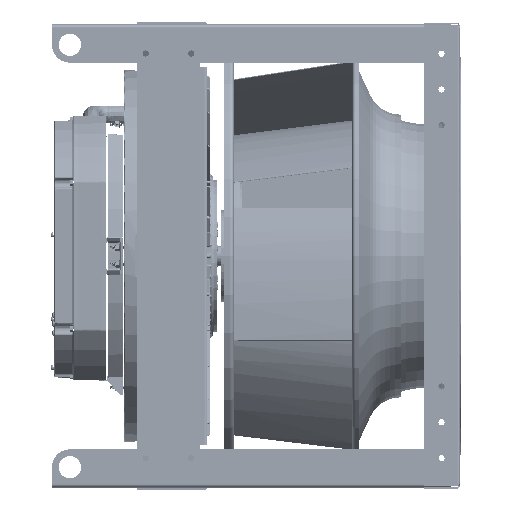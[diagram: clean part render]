
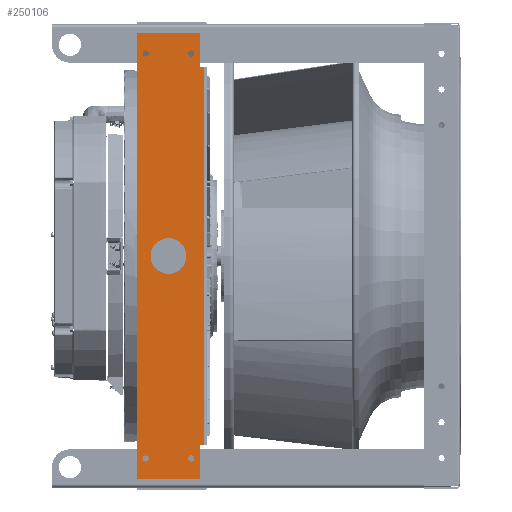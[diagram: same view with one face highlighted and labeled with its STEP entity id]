
A CAD part, front view. The second image highlights one B-rep face of the part: STEP entity #250106.
In plain terms, the highlighted planar face has unit normal (0, -1, 0) as drawn and (0, 0, 1) by its records, which use the part's own axes.
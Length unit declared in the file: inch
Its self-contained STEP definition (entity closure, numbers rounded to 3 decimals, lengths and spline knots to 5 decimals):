
#850 = CIRCLE ( 'NONE', #250341, 0.172 ) ;
#2383 = VECTOR ( 'NONE', #114653, 39.37008 ) ;
#4296 = CARTESIAN_POINT ( 'NONE',  ( 10.555, 1.9775, 0.135 ) ) ;
#7217 = VECTOR ( 'NONE', #151935, 39.37008 ) ;
#7656 = ORIENTED_EDGE ( 'NONE', *, *, #189326, .T. ) ;
#7744 = VECTOR ( 'NONE', #36117, 39.37008 ) ;
#11211 = FACE_BOUND ( 'NONE', #98206, .T. ) ;
#11302 = CARTESIAN_POINT ( 'NONE',  ( -12.465, 1.77, 0.135 ) ) ;
#12563 = PLANE ( 'NONE',  #202359 ) ;
#13639 = EDGE_LOOP ( 'NONE', ( #167964 ) ) ;
#16611 = EDGE_CURVE ( 'NONE', #42034, #265166, #261294, .T. ) ;
#17618 = CARTESIAN_POINT ( 'NONE',  ( 12.465, -1.77, 0.135 ) ) ;
#23545 = CARTESIAN_POINT ( 'NONE',  ( 10.555, 1.77, 0.135 ) ) ;
#24462 = EDGE_CURVE ( 'NONE', #31300, #31300, #154747, .T. ) ;
#30346 = ORIENTED_EDGE ( 'NONE', *, *, #176152, .F. ) ;
#31300 = VERTEX_POINT ( 'NONE', #32644 ) ;
#31707 = DIRECTION ( 'NONE',  ( 0., 0., 1. ) ) ;
#32075 = AXIS2_PLACEMENT_3D ( 'NONE', #50211, #198237, #217446 ) ;
#32644 = CARTESIAN_POINT ( 'NONE',  ( 11.477, -1.27, 0.135 ) ) ;
#33119 = FACE_OUTER_BOUND ( 'NONE', #215445, .T. ) ;
#35811 = DIRECTION ( 'NONE',  ( 0., 0., -1. ) ) ;
#36117 = DIRECTION ( 'NONE',  ( 0., -1., 0. ) ) ;
#39811 = DIRECTION ( 'NONE',  ( 0., 0., 1. ) ) ;
#41277 = VERTEX_POINT ( 'NONE', #23545 ) ;
#42034 = VERTEX_POINT ( 'NONE', #59282 ) ;
#42741 = EDGE_CURVE ( 'NONE', #226357, #41277, #50391, .T. ) ;
#45931 = LINE ( 'NONE', #252978, #182720 ) ;
#50211 = CARTESIAN_POINT ( 'NONE',  ( 11.305, 1.27, 0.135 ) ) ;
#50391 = LINE ( 'NONE', #216290, #7217 ) ;
#51025 = LINE ( 'NONE', #11302, #227820 ) ;
#52885 = CARTESIAN_POINT ( 'NONE',  ( -12.465, -1.77, 0.135 ) ) ;
#55802 = CARTESIAN_POINT ( 'NONE',  ( 0., 0., 0.135 ) ) ;
#56340 = FACE_BOUND ( 'NONE', #66647, .T. ) ;
#59282 = CARTESIAN_POINT ( 'NONE',  ( -12.465, 1.77, 0.135 ) ) ;
#62477 = CARTESIAN_POINT ( 'NONE',  ( 1., 0., 0.135 ) ) ;
#62935 = ORIENTED_EDGE ( 'NONE', *, *, #42741, .T. ) ;
#63827 = VERTEX_POINT ( 'NONE', #62477 ) ;
#66647 = EDGE_LOOP ( 'NONE', ( #135028 ) ) ;
#69074 = AXIS2_PLACEMENT_3D ( 'NONE', #239694, #114962, #132833 ) ;
#70729 = ORIENTED_EDGE ( 'NONE', *, *, #254744, .T. ) ;
#73283 = LINE ( 'NONE', #155618, #238849 ) ;
#75897 = CIRCLE ( 'NONE', #32075, 0.172 ) ;
#78133 = VERTEX_POINT ( 'NONE', #267377 ) ;
#79309 = DIRECTION ( 'NONE',  ( 0., 1., 0. ) ) ;
#85936 = CIRCLE ( 'NONE', #129779, 1. ) ;
#88894 = CARTESIAN_POINT ( 'NONE',  ( -11.477, -1.27, 0.135 ) ) ;
#93902 = DIRECTION ( 'NONE',  ( -1., 0., 0. ) ) ;
#94008 = EDGE_CURVE ( 'NONE', #78133, #42034, #51025, .T. ) ;
#96197 = CARTESIAN_POINT ( 'NONE',  ( 0., 0., 0.135 ) ) ;
#97879 = CARTESIAN_POINT ( 'NONE',  ( -10.555, 1.9775, 0.135 ) ) ;
#98206 = EDGE_LOOP ( 'NONE', ( #127704 ) ) ;
#104064 = VERTEX_POINT ( 'NONE', #88894 ) ;
#112399 = ORIENTED_EDGE ( 'NONE', *, *, #147413, .F. ) ;
#114653 = DIRECTION ( 'NONE',  ( 0., -1., 0. ) ) ;
#114962 = DIRECTION ( 'NONE',  ( 0., 0., 1. ) ) ;
#115375 = AXIS2_PLACEMENT_3D ( 'NONE', #219491, #31707, #198916 ) ;
#119246 = EDGE_CURVE ( 'NONE', #139496, #41277, #181423, .T. ) ;
#127704 = ORIENTED_EDGE ( 'NONE', *, *, #267573, .F. ) ;
#129779 = AXIS2_PLACEMENT_3D ( 'NONE', #55802, #180622, #183303 ) ;
#132833 = DIRECTION ( 'NONE',  ( 1., 0., 0. ) ) ;
#134836 = CIRCLE ( 'NONE', #69074, 0.172 ) ;
#135028 = ORIENTED_EDGE ( 'NONE', *, *, #145018, .F. ) ;
#136237 = DIRECTION ( 'NONE',  ( 0., -1., 0. ) ) ;
#137588 = CARTESIAN_POINT ( 'NONE',  ( 10.555, 1.9775, 0.135 ) ) ;
#139496 = VERTEX_POINT ( 'NONE', #4296 ) ;
#142737 = FACE_BOUND ( 'NONE', #268172, .T. ) ;
#145018 = EDGE_CURVE ( 'NONE', #63827, #63827, #85936, .T. ) ;
#147413 = EDGE_CURVE ( 'NONE', #184569, #184569, #134836, .T. ) ;
#151935 = DIRECTION ( 'NONE',  ( -1., 0., 0. ) ) ;
#153403 = VECTOR ( 'NONE', #136237, 39.37008 ) ;
#154747 = CIRCLE ( 'NONE', #115375, 0.172 ) ;
#155618 = CARTESIAN_POINT ( 'NONE',  ( 10.555, 1.9775, 0.135 ) ) ;
#165724 = ORIENTED_EDGE ( 'NONE', *, *, #119246, .F. ) ;
#167964 = ORIENTED_EDGE ( 'NONE', *, *, #24462, .F. ) ;
#176152 = EDGE_CURVE ( 'NONE', #177523, #177523, #75897, .T. ) ;
#177523 = VERTEX_POINT ( 'NONE', #261097 ) ;
#180622 = DIRECTION ( 'NONE',  ( 0., 0., 1. ) ) ;
#181423 = LINE ( 'NONE', #137588, #153403 ) ;
#182720 = VECTOR ( 'NONE', #251624, 39.37008 ) ;
#183303 = DIRECTION ( 'NONE',  ( 1., 0., 0. ) ) ;
#183503 = LINE ( 'NONE', #267115, #233693 ) ;
#184569 = VERTEX_POINT ( 'NONE', #268188 ) ;
#189326 = EDGE_CURVE ( 'NONE', #265166, #206780, #45931, .T. ) ;
#195228 = ORIENTED_EDGE ( 'NONE', *, *, #94008, .T. ) ;
#198237 = DIRECTION ( 'NONE',  ( 0., 0., 1. ) ) ;
#198811 = EDGE_LOOP ( 'NONE', ( #112399 ) ) ;
#198916 = DIRECTION ( 'NONE',  ( 1., 0., 0. ) ) ;
#199377 = CARTESIAN_POINT ( 'NONE',  ( 12.465, 1.77, 0.135 ) ) ;
#200325 = FACE_BOUND ( 'NONE', #198811, .T. ) ;
#202359 = AXIS2_PLACEMENT_3D ( 'NONE', #96197, #35811, #226312 ) ;
#202904 = CARTESIAN_POINT ( 'NONE',  ( -12.465, -1.77, 0.135 ) ) ;
#206780 = VERTEX_POINT ( 'NONE', #17618 ) ;
#207030 = DIRECTION ( 'NONE',  ( -1., 0., 0. ) ) ;
#215445 = EDGE_LOOP ( 'NONE', ( #269294, #7656, #70729, #62935, #165724, #217325, #262630, #195228 ) ) ;
#216290 = CARTESIAN_POINT ( 'NONE',  ( -12.465, 1.77, 0.135 ) ) ;
#217325 = ORIENTED_EDGE ( 'NONE', *, *, #230206, .T. ) ;
#217446 = DIRECTION ( 'NONE',  ( -1., 0., 0. ) ) ;
#219491 = CARTESIAN_POINT ( 'NONE',  ( 11.305, -1.27, 0.135 ) ) ;
#223620 = FACE_BOUND ( 'NONE', #13639, .T. ) ;
#226312 = DIRECTION ( 'NONE',  ( -1., 0., 0. ) ) ;
#226357 = VERTEX_POINT ( 'NONE', #199377 ) ;
#227820 = VECTOR ( 'NONE', #236193, 39.37008 ) ;
#230206 = EDGE_CURVE ( 'NONE', #139496, #239090, #73283, .T. ) ;
#233693 = VECTOR ( 'NONE', #79309, 39.37008 ) ;
#235119 = EDGE_CURVE ( 'NONE', #239090, #78133, #244503, .T. ) ;
#236193 = DIRECTION ( 'NONE',  ( -1., 0., 0. ) ) ;
#238849 = VECTOR ( 'NONE', #93902, 39.37008 ) ;
#239090 = VERTEX_POINT ( 'NONE', #253042 ) ;
#239694 = CARTESIAN_POINT ( 'NONE',  ( -11.305, 1.27, 0.135 ) ) ;
#244503 = LINE ( 'NONE', #97879, #7744 ) ;
#250106 = ADVANCED_FACE ( 'NONE', ( #56340, #33119, #11211, #200325, #223620, #142737 ), #12563, .F. ) ;
#250341 = AXIS2_PLACEMENT_3D ( 'NONE', #250920, #39811, #207030 ) ;
#250920 = CARTESIAN_POINT ( 'NONE',  ( -11.305, -1.27, 0.135 ) ) ;
#251624 = DIRECTION ( 'NONE',  ( 1., 0., 0. ) ) ;
#252978 = CARTESIAN_POINT ( 'NONE',  ( -12.465, -1.77, 0.135 ) ) ;
#253042 = CARTESIAN_POINT ( 'NONE',  ( -10.555, 1.9775, 0.135 ) ) ;
#254744 = EDGE_CURVE ( 'NONE', #206780, #226357, #183503, .T. ) ;
#261097 = CARTESIAN_POINT ( 'NONE',  ( 11.133, 1.27, 0.135 ) ) ;
#261294 = LINE ( 'NONE', #52885, #2383 ) ;
#262630 = ORIENTED_EDGE ( 'NONE', *, *, #235119, .T. ) ;
#265166 = VERTEX_POINT ( 'NONE', #202904 ) ;
#267115 = CARTESIAN_POINT ( 'NONE',  ( 12.465, -1.77, 0.135 ) ) ;
#267377 = CARTESIAN_POINT ( 'NONE',  ( -10.555, 1.77, 0.135 ) ) ;
#267573 = EDGE_CURVE ( 'NONE', #104064, #104064, #850, .T. ) ;
#268172 = EDGE_LOOP ( 'NONE', ( #30346 ) ) ;
#268188 = CARTESIAN_POINT ( 'NONE',  ( -11.133, 1.27, 0.135 ) ) ;
#269294 = ORIENTED_EDGE ( 'NONE', *, *, #16611, .T. ) ;
